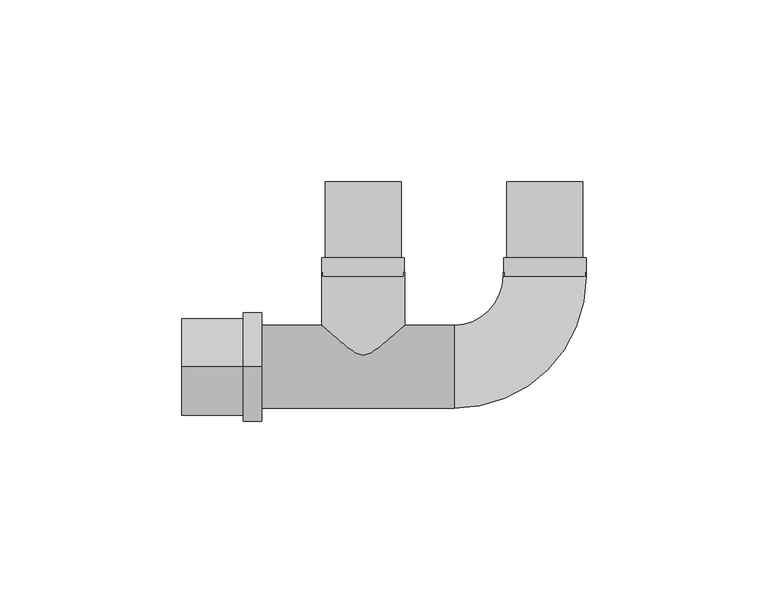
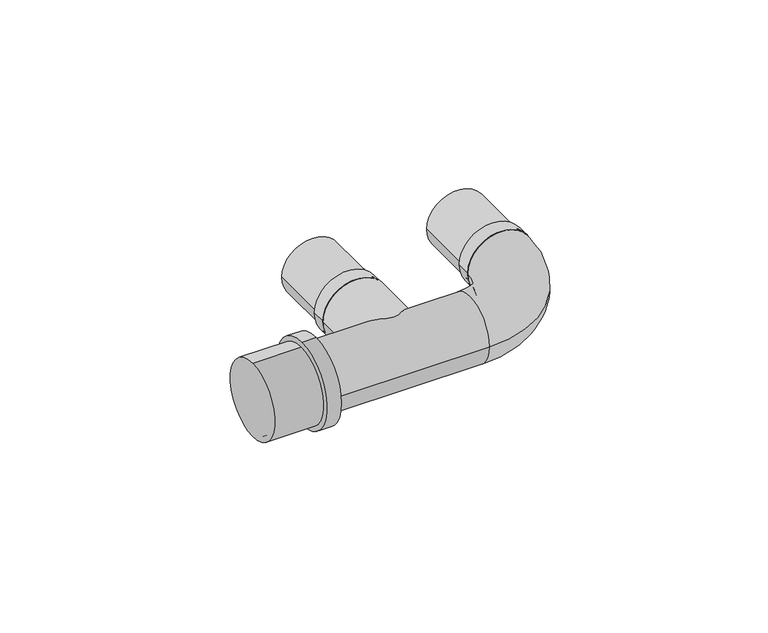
"""IFC4 building model written with IfcOpenShell, lengths in millimetres: pipe fitting geometry, PIF_Tigris_U-Connector_MMT_Wavin : 16-15/16-20/20-15/20-20."""

from ifc_helpers import new_model, si_unit, point, frame, frame_2d, origin, origin_2d, place, context, project, spatial, circle_curve, ellipse_curve, trimmed, segment, composite_curve, outline, extrude, source, transform, mapped, element, save
from ifc_brep_helpers import plane_surface, cylinder_surface, revolved_surface, advanced_brep


def pipe_fitting_f2b27973(model_context):
    return source(origin(), model_context, "Body", "SolidModel", [
        extrude(outline(composite_curve([segment(trimmed(circle_curve(frame_2d((0.0, 50.0)), 11.35), [point((0.0, 38.65))], [point((0.0, 61.35))], False, "CARTESIAN"), True, "CONTINUOUS"), segment(trimmed(circle_curve(frame_2d((0.0, 50.0)), 11.35), [point((0.0, 61.35))], [point((0.0, 38.65))], False, "CARTESIAN"), True, "CONTINUOUS")], self_intersect=False)), frame((0.0, 25.0, 0.0), z_axis=(0.0, 1.0, 0.0), x_axis=(0.0, 0.0, 1.0)), (0.0, 0.0, 1.0), 5.0),
        extrude(outline(composite_curve([segment(trimmed(circle_curve(frame_2d((0.0, 50.0)), 10.5), [point((0.0, 39.5))], [point((0.0, 60.5))], False, "CARTESIAN"), True, "CONTINUOUS"), segment(trimmed(circle_curve(frame_2d((0.0, 50.0)), 10.5), [point((0.0, 60.5))], [point((0.0, 39.5))], False, "CARTESIAN"), True, "CONTINUOUS")], self_intersect=False), holes=[composite_curve([segment(trimmed(circle_curve(frame_2d((0.0, 50.0)), 8.2), [point((0.0, 41.8))], [point((0.0, 58.2))], True, "CARTESIAN"), True, "CONTINUOUS"), segment(trimmed(circle_curve(frame_2d((0.0, 50.0)), 8.2), [point((0.0, 58.2))], [point((0.0, 41.8))], True, "CARTESIAN"), True, "CONTINUOUS")], self_intersect=False)]), frame((0.0, 30.0, 0.0), z_axis=(0.0, 1.0, 0.0), x_axis=(0.0, 0.0, 1.0)), (0.0, 0.0, 1.0), 21.0),
        extrude(outline(composite_curve([segment(trimmed(circle_curve(frame_2d((0.0, 50.0)), 6.1), [point((0.0, 43.9))], [point((0.0, 56.1))], False, "CARTESIAN"), True, "CONTINUOUS"), segment(trimmed(circle_curve(frame_2d((0.0, 50.0)), 6.1), [point((0.0, 56.1))], [point((0.0, 43.9))], False, "CARTESIAN"), True, "CONTINUOUS")], self_intersect=False), holes=[composite_curve([segment(trimmed(circle_curve(frame_2d((0.0, 50.0)), 4.0), [point((0.0, 46.0))], [point((0.0, 54.0))], True, "CARTESIAN"), True, "CONTINUOUS"), segment(trimmed(circle_curve(frame_2d((0.0, 50.0)), 4.0), [point((0.0, 54.0))], [point((0.0, 46.0))], True, "CARTESIAN"), True, "CONTINUOUS")], self_intersect=False)]), frame((0.0, 26.0, 0.0), z_axis=(0.0, 1.0, 0.0), x_axis=(0.0, 0.0, 1.0)), (0.0, 0.0, 1.0), 25.0),
        extrude(outline(composite_curve([segment(trimmed(circle_curve(origin_2d(), 11.35), [point((0.0, -11.35))], [point((0.0, 11.35))], False, "CARTESIAN"), True, "CONTINUOUS"), segment(trimmed(circle_curve(origin_2d(), 11.35), [point((0.0, 11.35))], [point((0.0, -11.35))], False, "CARTESIAN"), True, "CONTINUOUS")], self_intersect=False)), frame((0.0, 25.0, 0.0), z_axis=(0.0, 1.0, 0.0), x_axis=(0.0, 0.0, 1.0)), (0.0, 0.0, 1.0), 5.0),
        extrude(outline(composite_curve([segment(trimmed(circle_curve(origin_2d(), 10.5), [point((0.0, -10.5))], [point((0.0, 10.5))], False, "CARTESIAN"), True, "CONTINUOUS"), segment(trimmed(circle_curve(origin_2d(), 10.5), [point((0.0, 10.5))], [point((0.0, -10.5))], False, "CARTESIAN"), True, "CONTINUOUS")], self_intersect=False), holes=[composite_curve([segment(trimmed(circle_curve(origin_2d(), 8.2), [point((0.0, -8.2))], [point((0.0, 8.2))], True, "CARTESIAN"), True, "CONTINUOUS"), segment(trimmed(circle_curve(origin_2d(), 8.2), [point((0.0, 8.2))], [point((0.0, -8.2))], True, "CARTESIAN"), True, "CONTINUOUS")], self_intersect=False)]), frame((0.0, 30.0, 0.0), z_axis=(0.0, 1.0, 0.0), x_axis=(0.0, 0.0, 1.0)), (0.0, 0.0, 1.0), 21.0),
        extrude(outline(composite_curve([segment(trimmed(circle_curve(origin_2d(), 6.1), [point((0.0, -6.1))], [point((0.0, 6.1))], False, "CARTESIAN"), True, "CONTINUOUS"), segment(trimmed(circle_curve(origin_2d(), 6.1), [point((0.0, 6.1))], [point((0.0, -6.1))], False, "CARTESIAN"), True, "CONTINUOUS")], self_intersect=False), holes=[composite_curve([segment(trimmed(circle_curve(origin_2d(), 4.0), [point((0.0, -4.0))], [point((0.0, 4.0))], True, "CARTESIAN"), True, "CONTINUOUS"), segment(trimmed(circle_curve(origin_2d(), 4.0), [point((0.0, 4.0))], [point((0.0, -4.0))], True, "CARTESIAN"), True, "CONTINUOUS")], self_intersect=False)]), frame((0.0, 26.0, 0.0), z_axis=(0.0, 1.0, 0.0), x_axis=(0.0, 0.0, 1.0)), (0.0, 0.0, 1.0), 25.0),
        extrude(outline(composite_curve([segment(trimmed(circle_curve(origin_2d(), 15.0), [point((0.0, -15.0))], [point((0.0, 15.0))], False, "CARTESIAN"), True, "CONTINUOUS"), segment(trimmed(circle_curve(origin_2d(), 15.0), [point((0.0, 15.0))], [point((0.0, -15.0))], False, "CARTESIAN"), True, "CONTINUOUS")], self_intersect=False)), frame((-33.0, 0.0, 0.0), z_axis=(1.0, 0.0, 0.0), x_axis=(0.0, 1.0, 0.0)), (0.0, 0.0, 1.0), 5.0),
        extrude(outline(composite_curve([segment(trimmed(circle_curve(origin_2d(), 13.35), [point((0.0, -13.35))], [point((0.0, 13.35))], False, "CARTESIAN"), True, "CONTINUOUS"), segment(trimmed(circle_curve(origin_2d(), 13.35), [point((0.0, 13.35))], [point((0.0, -13.35))], False, "CARTESIAN"), True, "CONTINUOUS")], self_intersect=False)), frame((-50.0, 0.0, 0.0), z_axis=(1.0, 0.0, 0.0), x_axis=(0.0, 1.0, 0.0)), (0.0, 0.0, 1.0), 17.0),
        advanced_brep(
        [(-50.0, 11.45, 0.0), (-50.0, -11.45, 0.0), (25.0, -11.45, 0.0), (25.0, 11.45, 0.0), (38.55, 26.0, 0.0), (61.45, 26.0, 0.0), (61.45, 25.0, 0.0), (38.55, 25.0, 0.0)],
        [
            (0, 1, circle_curve(frame((-50.0, 0.0, 0.0), z_axis=(-1.0, 0.0, 0.0), x_axis=(0.0, -1.0000000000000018, 0.0)), 11.45)),
            (1, 0, circle_curve(frame((-50.0, 0.0, 0.0), z_axis=(-1.0, 0.0, 0.0), x_axis=(0.0, -1.0000000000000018, 0.0)), 11.45)),
            (1, 2),
            (2, 3, circle_curve(frame((25.0, 0.0, 0.0), z_axis=(-1.0, 0.0, 0.0), x_axis=(0.0, -1.0000000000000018, 0.0)), 11.45)),
            (3, 0),
            (3, 2, circle_curve(frame((25.0, 0.0, 0.0), z_axis=(-1.0, 0.0, 0.0), x_axis=(0.0, -1.0000000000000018, 0.0)), 11.45)),
            (4, 5, circle_curve(frame((50.0, 26.0, 0.0), z_axis=(0.0, 1.0, 0.0), x_axis=(1.0000000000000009, 0.0, 0.0)), 11.45)),
            (5, 4, circle_curve(frame((50.0, 26.0, 0.0), z_axis=(0.0, 1.0, 0.0), x_axis=(1.0000000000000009, 0.0, 0.0)), 11.45)),
            (6, 5),
            (4, 7),
            (7, 6, circle_curve(frame((50.0, 25.0, 0.0), z_axis=(0.0, 1.0, 0.0), x_axis=(1.0000000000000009, 0.0, 0.0)), 11.45)),
            (6, 7, circle_curve(frame((50.0, 25.0, 0.0), z_axis=(0.0, 1.0, 0.0), x_axis=(1.0000000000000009, 0.0, 0.0)), 11.45)),
            (7, 3, circle_curve(frame((25.0, 25.0, 0.0), z_axis=(0.0, 0.0, -1.0), x_axis=(0.0, -1.0000000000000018, 0.0)), 13.55)),
            (2, 6, circle_curve(frame((25.0, 25.0, 0.0), z_axis=(0.0, 0.0, 1.0), x_axis=(0.0, -1.0000000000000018, 0.0)), 36.45)),
        ],
        [
            plane_surface(frame((-50.0, 0.0, 0.0), z_axis=(-1.0, 0.0, 0.0), x_axis=(0.0, 0.0, 1.0))),
            cylinder_surface(frame((-50.0, 0.0, 0.0), z_axis=(-1.0000000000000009, 0.0, 0.0), x_axis=(0.0, -1.0000000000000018, 0.0)), 11.45),
            plane_surface(frame((50.0, 26.0, 0.0), z_axis=(0.0, 1.0, 0.0), x_axis=(0.0, 0.0, 1.0))),
            cylinder_surface(frame((50.0, 25.0, 0.0), z_axis=(0.0, -1.0000000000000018, 0.0), x_axis=(1.0000000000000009, 0.0, 0.0)), 11.45),
            revolved_surface(trimmed(ellipse_curve(frame((25.0, 0.0, 0.0), z_axis=(1.0000000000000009, 0.0, 0.0), x_axis=(0.0, -1.0000000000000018, 0.0)), 11.45, 11.45), [point((25.0, 11.45, 0.0))], [point((25.0, -11.45, 0.0))], True, "CARTESIAN"), (25.0, 25.0, 0.0), (0.0, 0.0, -1.0000000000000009)),
            revolved_surface(trimmed(ellipse_curve(frame((25.0, 0.0, 0.0), z_axis=(1.0000000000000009, 0.0, 0.0), x_axis=(0.0, -1.0000000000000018, 0.0)), 11.45, 11.45), [point((25.0, -11.45, 0.0))], [point((25.0, 11.45, 0.0))], True, "CARTESIAN"), (25.0, 25.0, 0.0), (0.0, 0.0, -1.0000000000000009)),
        ],
        [
            (0, [[1, 2]]),
            (1, [[3, 4, 5, -2]]),
            (1, [[-5, 6, -3, -1]]),
            (2, [[7, 8]]),
            (3, [[9, -7, 10, 11]]),
            (3, [[-10, -8, -9, 12]]),
            (4, [[-11, 13, -4, 14]]),
            (5, [[-12, -14, -6, -13]]),
        ],
    ),
        extrude(outline(composite_curve([segment(trimmed(circle_curve(origin_2d(), 11.45), [point((0.0, 11.45))], [point((0.0, -11.45))], False, "CARTESIAN"), True, "CONTINUOUS"), segment(trimmed(circle_curve(origin_2d(), 11.45), [point((0.0, -11.45))], [point((0.0, 11.45))], False, "CARTESIAN"), True, "CONTINUOUS")], self_intersect=False)), frame((0.0, 0.0, 0.0), z_axis=(0.0, 1.0, 0.0), x_axis=(0.0, 0.0, 1.0)), (0.0, 0.0, 1.0), 26.0),
    ])


if __name__ == "__main__":
    model = new_model("IFC4")
    model_context = context("Model", 3, world=origin())
    ifc_project = project(units=[si_unit("LENGTHUNIT", "METRE", prefix="MILLI")], contexts=[model_context])
    site = spatial("IfcSite", under=ifc_project)
    building = spatial("IfcBuilding", under=site)
    placement = place(None, origin())
    pipe_fitting_shape = pipe_fitting_f2b27973(model_context)
    element("IfcPipeFitting", 1, ObjectType="PIF_Tigris_U-Connector_MMT_Wavin : 16-15/16-20/20-15/20-20", at=placement, inside=building, context=model_context, shape_type="MappedRepresentation", body=[
        mapped(pipe_fitting_shape, transform((0.0, 0.0, 0.0), x_axis=(1.0, 0.0, 0.0), y_axis=(0.0, 1.0, 0.0), z_axis=(0.0, 0.0, 1.0))),
    ])
    save(model, "model.ifc")
